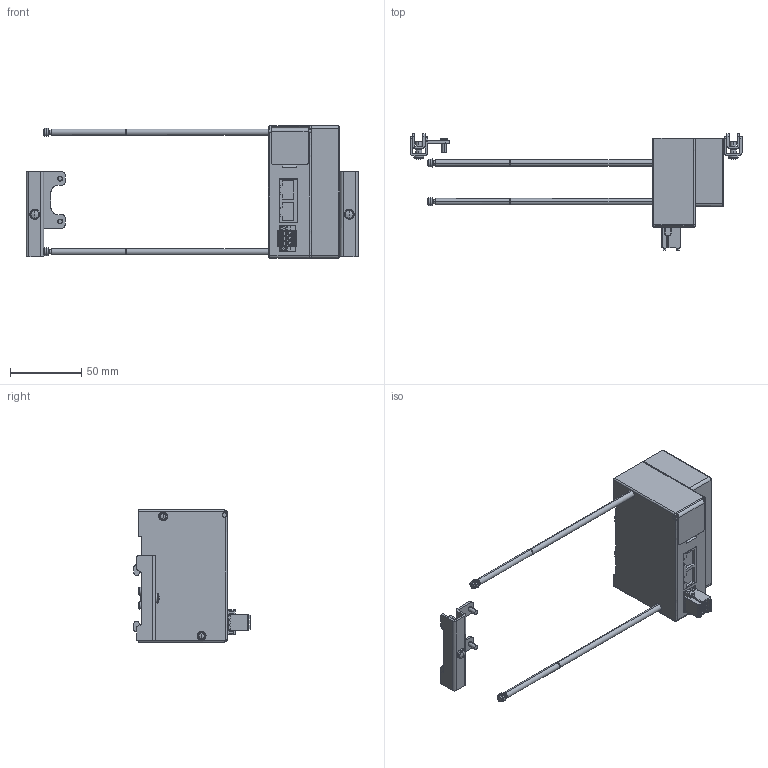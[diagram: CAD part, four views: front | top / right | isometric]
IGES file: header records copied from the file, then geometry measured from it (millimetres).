
Start section: ------------------------------------------------------------------------
Bounding box: 233.5 x 82.1 x 93 mm (x, y, z)
Volume: 268622.8 mm3; surface area: 49517.1 mm2
Topology: 3 solids, 3 shells, 983 faces, 2565 edges, 1641 vertices
Faces by surface type: bspline 983
